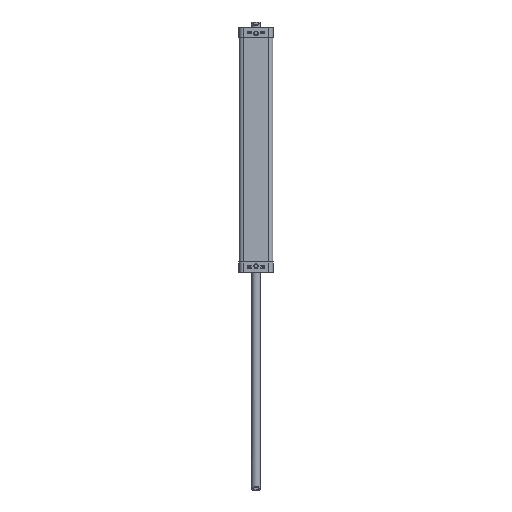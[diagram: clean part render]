
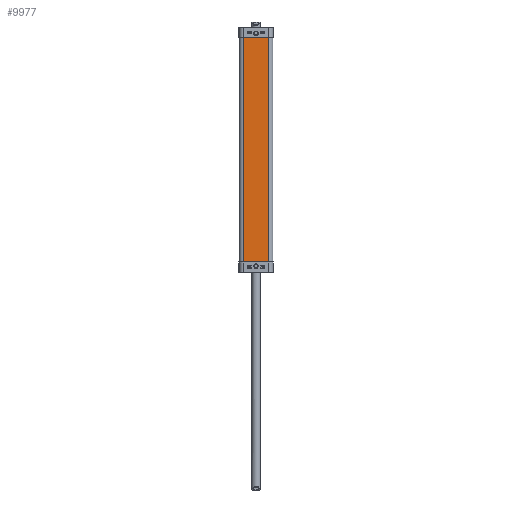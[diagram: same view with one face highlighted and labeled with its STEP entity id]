
A CAD part, left-side view. The second image highlights one B-rep face of the part: STEP entity #9977.
In plain terms, the highlighted planar face has unit normal (-1, 0, 0).
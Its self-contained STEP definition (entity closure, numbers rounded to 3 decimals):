
#548=LINE('',#17983,#1428);
#576=LINE('',#18096,#1456);
#658=LINE('',#18316,#1538);
#659=LINE('',#18318,#1539);
#1428=VECTOR('',#15287,1000.);
#1456=VECTOR('',#15373,1000.);
#1538=VECTOR('',#15619,1000.);
#1539=VECTOR('',#15622,1000.);
#2585=ORIENTED_EDGE('',*,*,#5211,.T.);
#2586=ORIENTED_EDGE('',*,*,#5377,.T.);
#2587=ORIENTED_EDGE('',*,*,#5378,.T.);
#2588=ORIENTED_EDGE('',*,*,#5267,.F.);
#5211=EDGE_CURVE('',#6662,#6663,#548,.T.);
#5267=EDGE_CURVE('',#6662,#6718,#576,.T.);
#5377=EDGE_CURVE('',#6663,#6773,#658,.T.);
#5378=EDGE_CURVE('',#6773,#6718,#659,.T.);
#6662=VERTEX_POINT('',#17984);
#6663=VERTEX_POINT('',#17985);
#6718=VERTEX_POINT('',#18097);
#6773=VERTEX_POINT('',#18315);
#8112=EDGE_LOOP('',(#2585,#2586,#2587,#2588));
#8894=FACE_BOUND('',#8112,.T.);
#9647=PLANE('',#14486);
#9977=ADVANCED_FACE('',(#8894),#9647,.T.);
#14486=AXIS2_PLACEMENT_3D('',#18317,#15620,#15621);
#15287=DIRECTION('',(0.,0.,-1.));
#15373=DIRECTION('',(0.,-1.,0.));
#15619=DIRECTION('',(0.,-1.,0.));
#15620=DIRECTION('',(-1.,0.,0.));
#15621=DIRECTION('',(0.,0.,1.));
#15622=DIRECTION('',(0.,0.,1.));
#17983=CARTESIAN_POINT('',(-20.,254.5,15.));
#17984=CARTESIAN_POINT('',(-20.,254.5,15.));
#17985=CARTESIAN_POINT('',(-20.,254.5,-15.));
#18096=CARTESIAN_POINT('',(-20.,9.5,15.));
#18097=CARTESIAN_POINT('',(-20.,-9.5,15.));
#18315=CARTESIAN_POINT('',(-20.,-9.5,-15.));
#18316=CARTESIAN_POINT('',(-20.,9.5,-15.));
#18317=CARTESIAN_POINT('',(-20.,0.,15.));
#18318=CARTESIAN_POINT('',(-20.,-9.5,-15.));
